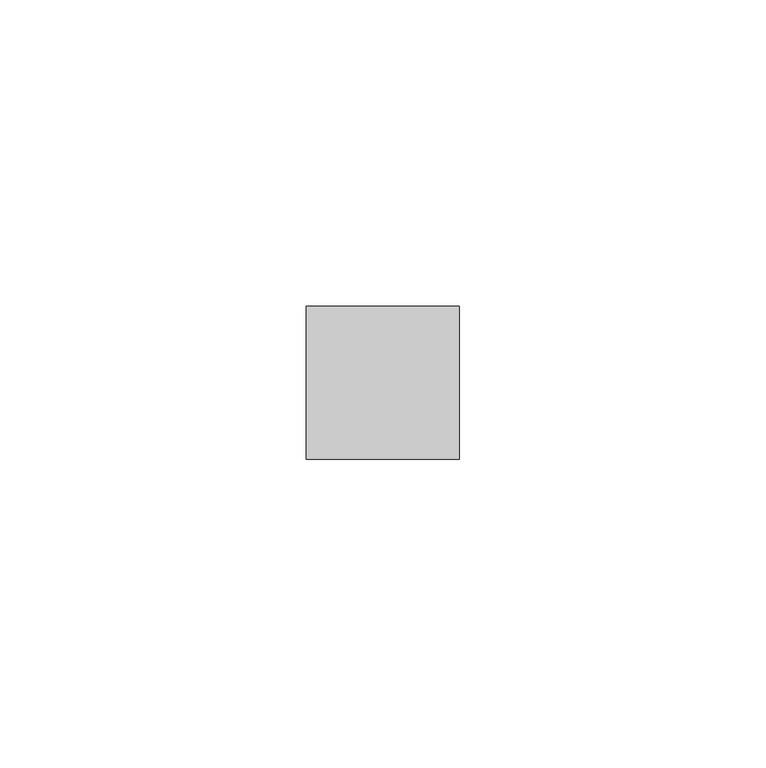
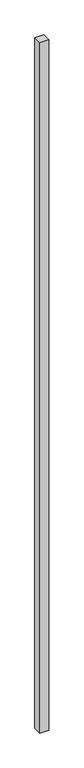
"""IFC4 building model written with IfcOpenShell, lengths in millimetres: member geometry, Obdélníková příčel : VERTI AERO."""

from ifc_helpers import new_model, si_unit, frame, origin, place, context, project, spatial, polyline, outline, extrude, source, transform, mapped, element, save


def member_aa4ee4c7(model_context):
    return source(origin(), model_context, "Body", "SweptSolid", [
        extrude(outline(polyline([(0.0, 12.5), (0.0, -12.5), (-25.0, -12.5), (-25.0, 12.5), (0.0, 12.5)])), frame((0.0, 0.0, -2075.0), z_axis=(0.0, 0.0, 1.0), x_axis=(1.0, 0.0, 0.0)), (0.0, 0.0, 1.0), 2075.0),
    ])


if __name__ == "__main__":
    model = new_model("IFC4")
    model_context = context("Model", 3, world=origin())
    ifc_project = project(units=[si_unit("LENGTHUNIT", "METRE", prefix="MILLI")], contexts=[model_context])
    site = spatial("IfcSite", under=ifc_project)
    building = spatial("IfcBuilding", under=site)
    placement = place(None, origin())
    member_shape = member_aa4ee4c7(model_context)
    element("IfcMember", 1, ObjectType="Obdélníková příčel : VERTI AERO", at=placement, inside=building, context=model_context, shape_type="MappedRepresentation", body=[
        mapped(member_shape, transform((0.0, 0.0, 0.0), x_axis=(1.0, 0.0, 0.0), y_axis=(0.0, 1.0, 0.0), z_axis=(0.0, 0.0, 1.0))),
    ])
    save(model, "model.ifc")
